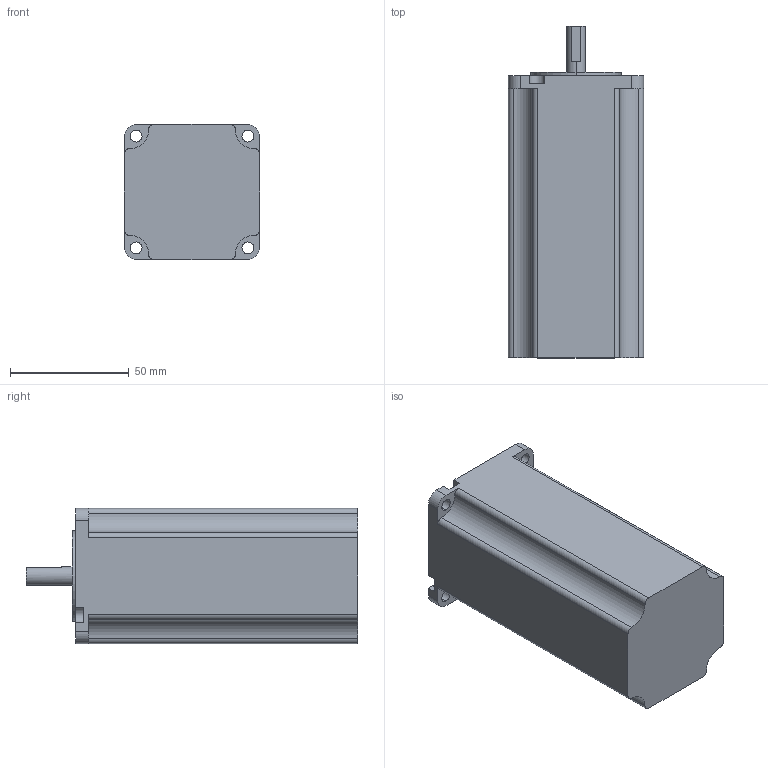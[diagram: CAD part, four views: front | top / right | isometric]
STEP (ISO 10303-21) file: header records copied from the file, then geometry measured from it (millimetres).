
FILE_DESCRIPTION (( 'STEP AP214' ), '1' );
FILE_NAME ('57HS80H404D0821-BZ.STEP', '2019-09-23T01:02:53', ( 'wimxt.com' ), ( 'wimxt.com' ), 'SwSTEP 2.0', 'SolidWorks 2014', '' );
FILE_SCHEMA (( 'AUTOMOTIVE_DESIGN' ));
Length unit declared in the file: millimetre
Products named in the file (1): 57HS80H404D0821-BZ
Bounding box: 57 x 140 x 57 mm (x, y, z)
Volume: 343920.5 mm3; surface area: 34737.3 mm2
Topology: 1 solids, 1 shells, 77 faces, 201 edges, 134 vertices
Faces by surface type: cylinder 45, plane 32
Entity records: 2457 total; most frequent: DIRECTION 449, CARTESIAN_POINT 413, ORIENTED_EDGE 402, EDGE_CURVE 201, AXIS2_PLACEMENT_3D 170, VERTEX_POINT 134, LINE 109, VECTOR 109
